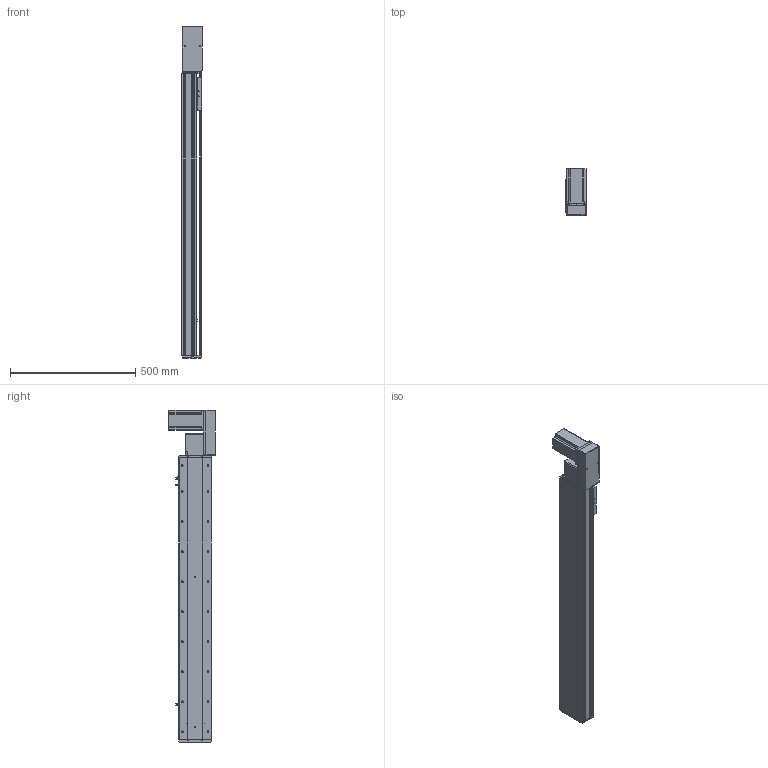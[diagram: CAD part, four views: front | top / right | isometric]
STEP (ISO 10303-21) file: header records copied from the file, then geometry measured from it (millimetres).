
FILE_DESCRIPTION (( 'STEP AP214' ), '1' );
FILE_NAME ('KSD130B-S900-MLB-CM.STEP', '2019-09-19T07:30:49', ( '微软用户' ), ( '微软中国' ), 'SwSTEP 2.0', 'SolidWorks 2014', '' );
FILE_SCHEMA (( 'AUTOMOTIVE_DESIGN' ));
Length unit declared in the file: millimetre
Products named in the file (12): 台达ECMA－C20807AS伺服电机; 130宽模组保护罩上下左右折-同步带; 130宽模组马达安装板连板左右折同步带; 覜茼え100遵圉猾敕; U倰嫖萇EEㄜSX672; 130宽盖板半封闭同步带-900行程; 130宽马达安装板同步带左-改; 130宽马达安装板同步带半封闭; 130宽同步带安装座半封闭; 130宽端盖同步带半封闭; 130宽底板半封闭同步带-900行程; KSD130B-S900-MLB-CM
Assembly tree (13 placements, depth 2):
  KSD130B-S900-MLB-CM
    130宽底板半封闭同步带-900行程
    130宽端盖同步带半封闭
    130宽同步带安装座半封闭
    130宽马达安装板同步带半封闭
    130宽马达安装板同步带左-改
    130宽盖板半封闭同步带-900行程
    U倰嫖萇EEㄜSX672  x3
    覜茼え100遵圉猾敕
    130宽模组马达安装板连板左右折同步带
    130宽模组保护罩上下左右折-同步带
    台达ECMA－C20807AS伺服电机
Bounding box: 82.5 x 184.8 x 1327 mm (x, y, z)
Volume: 4718658.5 mm3; surface area: 1278850.1 mm2
Topology: 14 solids, 14 shells, 1509 faces, 4301 edges, 2751 vertices
Faces by surface type: cylinder 720, plane 622, cone 167
Entity records: 49447 total; most frequent: CARTESIAN_POINT 9140, DIRECTION 7531, ORIENTED_EDGE 7254, EDGE_CURVE 3627, AXIS2_PLACEMENT_3D 2742, VERTEX_POINT 2375, VECTOR 2047, LINE 2047
